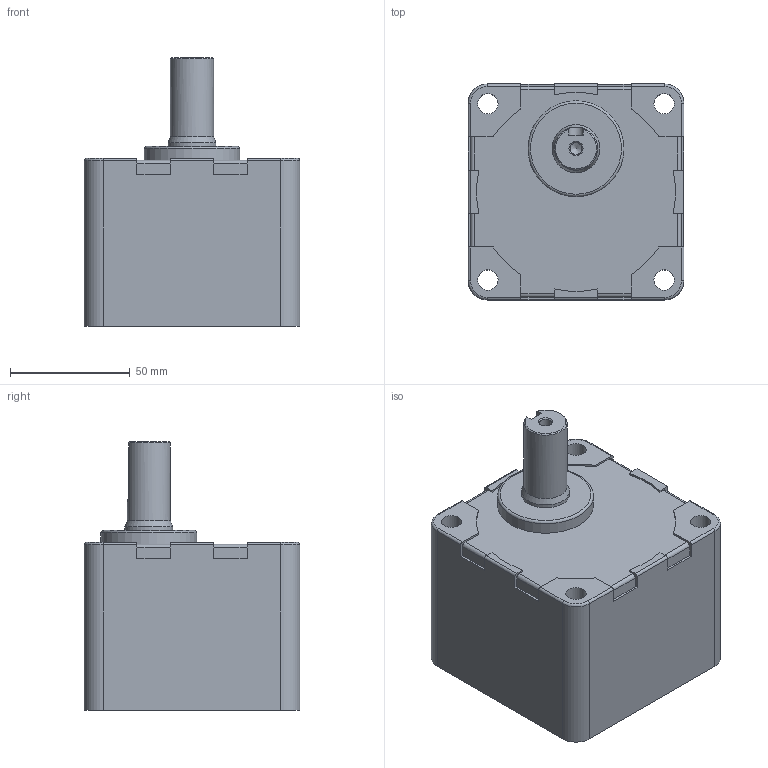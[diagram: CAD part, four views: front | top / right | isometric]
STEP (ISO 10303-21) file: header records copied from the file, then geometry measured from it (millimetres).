
FILE_DESCRIPTION(/* description */ (''),/* implementation_level */ '2;1');
FILE_NAME(/* name */ 'E:\도면작업\2016\0704) 미주향 SG 도면\3D GEAR HEAD\SG9KC50~200.stp',/* time_stamp */ '2016-07-22T14:05:15+09:00',/* author */ ('jy-jung'),/* organization */ (''),/* preprocessor_version */ 'ST-DEVELOPER v15.6',/* originating_system */ 'Autodesk Inventor 2015',/* authorisation */ '');
FILE_SCHEMA (('AUTOMOTIVE_DESIGN { 1 0 10303 214 3 1 1 }'));
Length unit declared in the file: millimetre
Products named in the file (1): SG9KC50~200
Bounding box: 90 x 90 x 112 mm (x, y, z)
Volume: 542139.3 mm3; surface area: 51685.9 mm2
Topology: 1 solids, 1 shells, 106 faces, 285 edges, 185 vertices
Faces by surface type: plane 53, cylinder 42, cone 6, torus 5
Full cylindrical faces by diameter (mm): 4.917 x1, 8.5 x4, 10.5 x1, 18 x1, 20 x1, 40 x1, 83 x1
Entity records: 3284 total; most frequent: CARTESIAN_POINT 581, DIRECTION 570, ORIENTED_EDGE 536, EDGE_CURVE 268, AXIS2_PLACEMENT_3D 199, VERTEX_POINT 184, LINE 172, VECTOR 172
